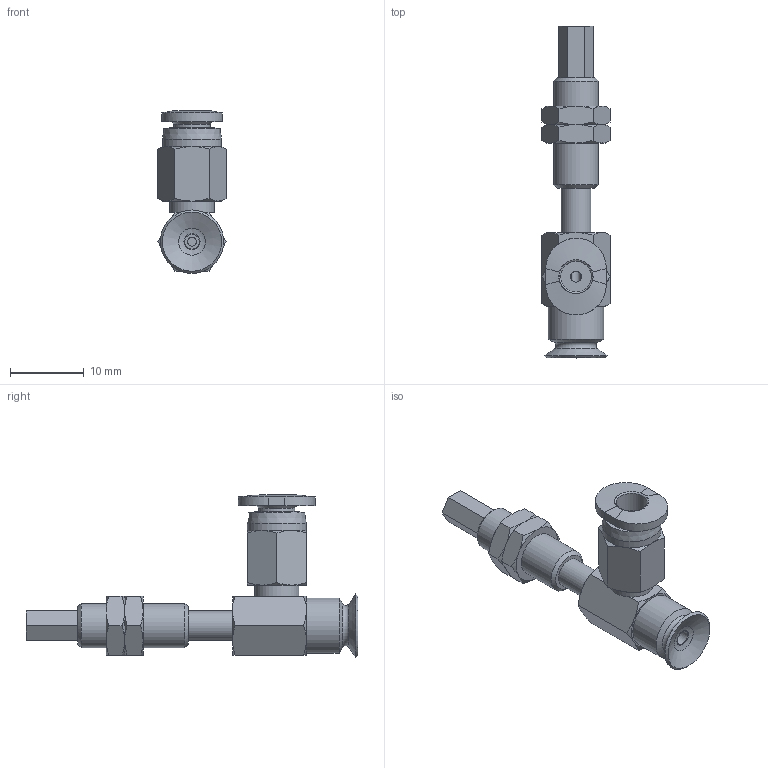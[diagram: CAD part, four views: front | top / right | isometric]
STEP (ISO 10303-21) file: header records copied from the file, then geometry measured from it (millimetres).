
FILE_DESCRIPTION(('STEP AP203'),'1');
FILE_NAME('-O.stp','2025-04-09T06:28:37',(' '),(' '),'Spatial InterOp 3D',' ',' ');
FILE_SCHEMA(('CONFIG_CONTROL_DESIGN'));
Length unit declared in the file: millimetre
Products named in the file (7): BNABPFYS-8A-6-※-O; CONNECTOR-8A-6; Nut-8A-6-s; NAPFTS-8A-6-FBODY; NAPFTS-8A-6-MBODY; BPFG-8A-※; PC-C_04-M3
Assembly tree (7 placements, depth 2):
  BNABPFYS-8A-6-※-O
    CONNECTOR-8A-6
    Nut-8A-6-s  x2
    NAPFTS-8A-6-FBODY
    NAPFTS-8A-6-MBODY
    BPFG-8A-※
    PC-C_04-M3
Bounding box: 9.24 x 45 x 22.07 mm (x, y, z)
Volume: 1502.2 mm3; surface area: 3026.1 mm2
Topology: 6 solids, 8 shells, 183 faces, 382 edges, 228 vertices
Faces by surface type: plane 73, cone 68, cylinder 24, torus 10, bspline 5, revolution 3
Full cylindrical faces by diameter (mm): 1.2 x1, 2 x1, 2.459 x2, 2.5 x2, 3 x2, 4 x4, 4.9 x1, 5.188 x2, 6 x4, 6.1 x1, 7.5 x1, 8 x1
Entity records: 4675 total; most frequent: CARTESIAN_POINT 1277, DIRECTION 635, ORIENTED_EDGE 548, AXIS2_PLACEMENT_3D 279, EDGE_CURVE 275, EDGE_LOOP 234, VERTEX_POINT 191, FACE_OUTER_BOUND 132
